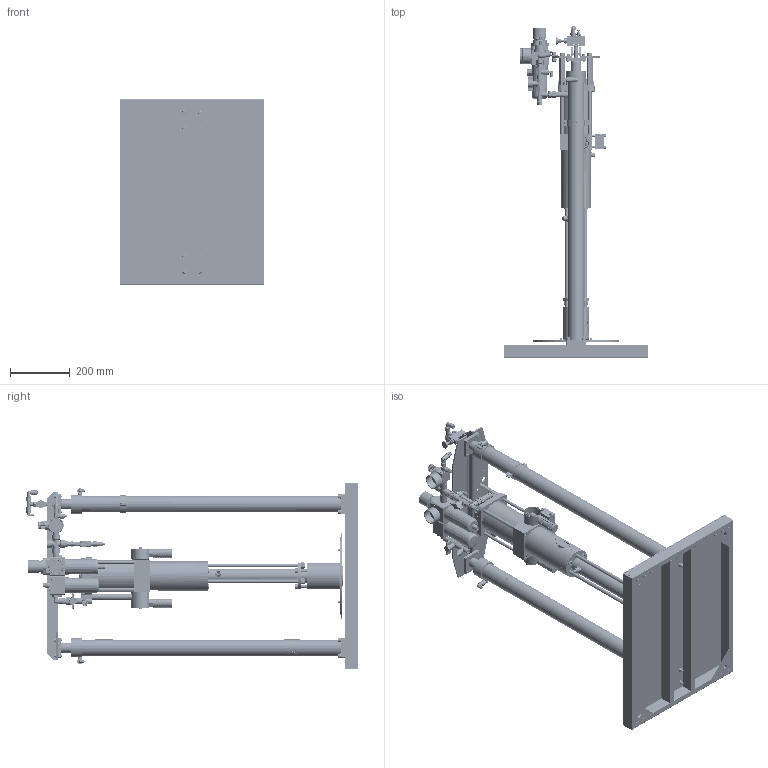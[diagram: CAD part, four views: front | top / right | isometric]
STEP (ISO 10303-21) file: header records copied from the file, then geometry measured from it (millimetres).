
FILE_DESCRIPTION (( 'STEP AP214' ), '1' );
FILE_NAME ('PP50-30-40.STEP', '2024-10-11T14:15:00', ( '' ), ( '' ), 'SwSTEP 2.0', 'SolidWorks 2024', '' );
FILE_SCHEMA (( 'AUTOMOTIVE_DESIGN' ));
Products named in the file (1): PP50-30-40
Bounding box: 480 x 1108.5 x 620 mm (x, y, z)
Volume: 9765998.6 mm3; surface area: 3408950.1 mm2
Topology: 2 solids, 11 shells, 5079 faces, 12860 edges, 8323 vertices
Faces by surface type: plane 2991, cylinder 1116, cone 748, bspline 224
Full cylindrical faces by diameter (mm): 1.25 x6, 2 x8, 2.5 x2, 3 x6, 3.2 x4, 3.242 x3, 3.3 x2, 3.5 x2, 3.917 x4, 4 x10, 4.134 x1, 4.2 x6, 4.5 x9, 4.6 x1, 5 x21, 5.04 x1, 5.1 x4, 5.3 x4, 5.333 x2, 5.5 x21, 6 x30, 6.2 x2, 6.25 x2, 6.5 x4, 6.8 x1, 7 x16, 7.5 x4, 7.9 x1, 8 x33, 8.052 x4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
Entity records: 176683 total; most frequent: CARTESIAN_POINT 65753, ORIENTED_EDGE 22316, DIRECTION 21217, EDGE_CURVE 11158, AXIS2_PLACEMENT_3D 7898, VERTEX_POINT 7821, EDGE_LOOP 7059, FACE_OUTER_BOUND 5894
